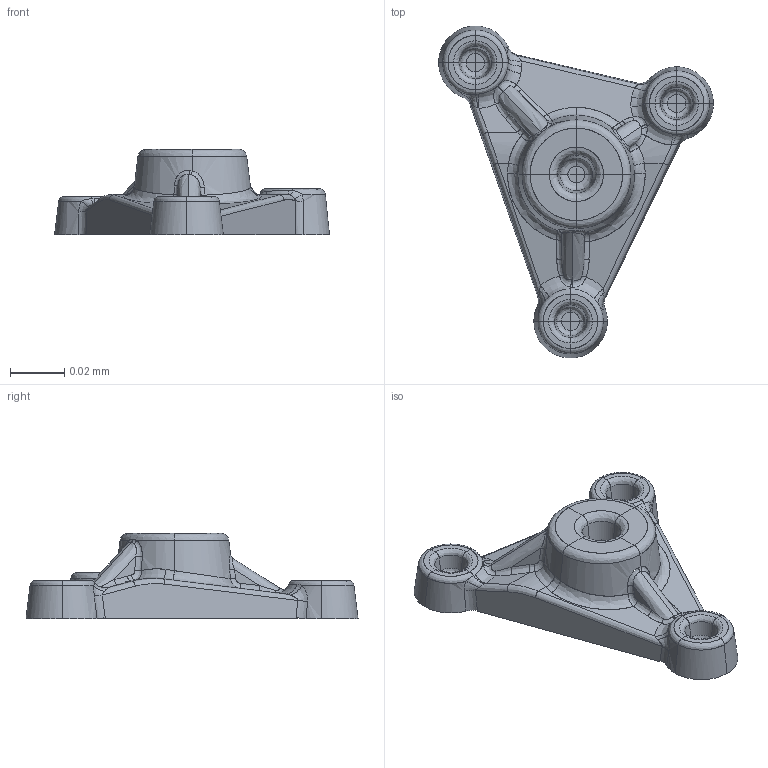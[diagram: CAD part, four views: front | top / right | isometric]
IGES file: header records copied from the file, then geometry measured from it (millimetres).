
Global section: file name: Filename.iges; native system: MATRA-DATAVISION EUCLID-QUANTUM; preprocessor: OL-2.0B on Windows NT Version 4.0; author: mls; organization: Matra Datavision; date: 980911.141958; units: millimetre
Bounding box: 0.1 x 0.12 x 0.03 mm (x, y, z)
Surface area: 0 mm2 (no closed solid volume)
Topology: 0 solids, 0 shells, 213 faces, 941 edges, 925 vertices
Faces by surface type: bspline 213
